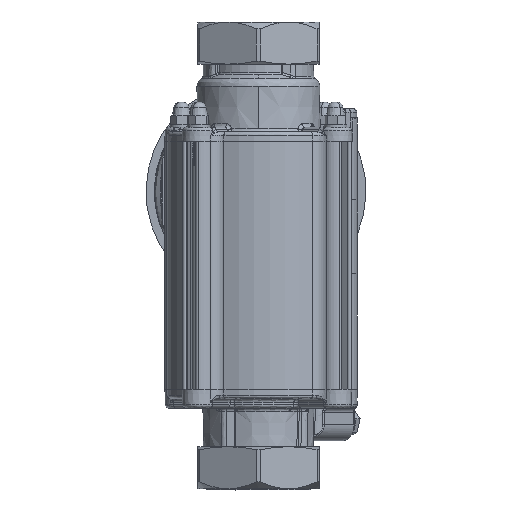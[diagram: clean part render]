
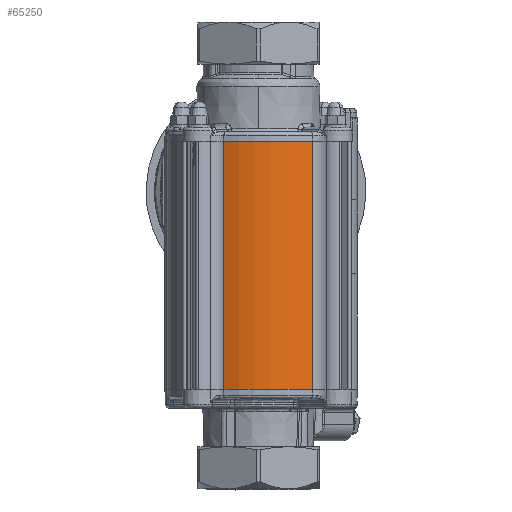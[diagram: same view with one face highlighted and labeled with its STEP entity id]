
A CAD part, front view. The second image highlights one B-rep face of the part: STEP entity #65250.
In plain terms, the highlighted cylindrical face has radius 39.1 mm (diameter 78.2 mm), a partial arc.
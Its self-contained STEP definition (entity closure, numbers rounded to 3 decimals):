
#582 = VERTEX_POINT ( 'NONE', #79062 ) ;
#1433 = AXIS2_PLACEMENT_3D ( 'NONE', #36269, #87239, #43627 ) ;
#3316 = VECTOR ( 'NONE', #60719, 1000. ) ;
#3565 = CARTESIAN_POINT ( 'NONE',  ( 23.18, -31.488, 106. ) ) ;
#7245 = ORIENTED_EDGE ( 'NONE', *, *, #40721, .F. ) ;
#7908 = ORIENTED_EDGE ( 'NONE', *, *, #57744, .T. ) ;
#9684 = CARTESIAN_POINT ( 'NONE',  ( -14.725, -36.221, 106. ) ) ;
#10475 = CIRCLE ( 'NONE', #1433, 39.1 ) ;
#16667 = CARTESIAN_POINT ( 'NONE',  ( -14.725, -36.221, 106. ) ) ;
#19797 = CARTESIAN_POINT ( 'NONE',  ( 0., 0., 0. ) ) ;
#23262 = DIRECTION ( 'NONE',  ( 0., 0., -1. ) ) ;
#25084 = LINE ( 'NONE', #9684, #3316 ) ;
#27076 = DIRECTION ( 'NONE',  ( 1., 0., 0. ) ) ;
#33010 = DIRECTION ( 'NONE',  ( 0., 0., 1. ) ) ;
#36269 = CARTESIAN_POINT ( 'NONE',  ( 0., 0., 106. ) ) ;
#37952 = VECTOR ( 'NONE', #33010, 1000. ) ;
#40721 = EDGE_CURVE ( 'NONE', #43300, #54531, #10475, .T. ) ;
#43300 = VERTEX_POINT ( 'NONE', #16667 ) ;
#43627 = DIRECTION ( 'NONE',  ( 1., 0., 0. ) ) ;
#52431 = EDGE_CURVE ( 'NONE', #582, #66539, #84338, .T. ) ;
#53169 = CYLINDRICAL_SURFACE ( 'NONE', #85645, 39.1 ) ;
#54531 = VERTEX_POINT ( 'NONE', #3565 ) ;
#56293 = CARTESIAN_POINT ( 'NONE',  ( 23.18, -31.488, 0. ) ) ;
#57744 = EDGE_CURVE ( 'NONE', #66539, #54531, #93852, .T. ) ;
#59779 = DIRECTION ( 'NONE',  ( -1., 0., 0. ) ) ;
#60719 = DIRECTION ( 'NONE',  ( 0., 0., -1. ) ) ;
#65250 = ADVANCED_FACE ( 'NONE', ( #79466 ), #53169, .T. ) ;
#66539 = VERTEX_POINT ( 'NONE', #56293 ) ;
#66908 = CARTESIAN_POINT ( 'NONE',  ( 0., 0., 106. ) ) ;
#67500 = EDGE_LOOP ( 'NONE', ( #7245, #86570, #83257, #7908 ) ) ;
#68799 = EDGE_CURVE ( 'NONE', #43300, #582, #25084, .T. ) ;
#70771 = DIRECTION ( 'NONE',  ( 0., 0., 1. ) ) ;
#74627 = AXIS2_PLACEMENT_3D ( 'NONE', #19797, #70771, #27076 ) ;
#79062 = CARTESIAN_POINT ( 'NONE',  ( -14.725, -36.221, 0. ) ) ;
#79466 = FACE_OUTER_BOUND ( 'NONE', #67500, .T. ) ;
#83257 = ORIENTED_EDGE ( 'NONE', *, *, #52431, .T. ) ;
#84338 = CIRCLE ( 'NONE', #74627, 39.1 ) ;
#85645 = AXIS2_PLACEMENT_3D ( 'NONE', #66908, #23262, #59779 ) ;
#86570 = ORIENTED_EDGE ( 'NONE', *, *, #68799, .T. ) ;
#87239 = DIRECTION ( 'NONE',  ( 0., 0., 1. ) ) ;
#91610 = CARTESIAN_POINT ( 'NONE',  ( 23.18, -31.488, 106. ) ) ;
#93852 = LINE ( 'NONE', #91610, #37952 ) ;
